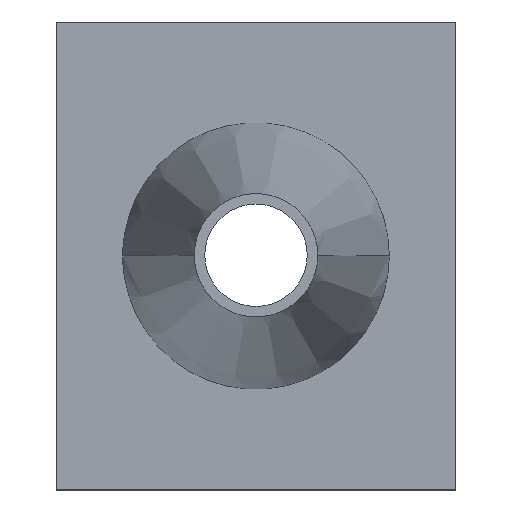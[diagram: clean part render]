
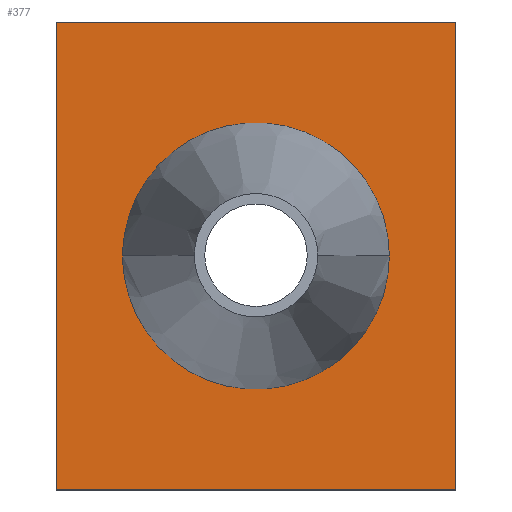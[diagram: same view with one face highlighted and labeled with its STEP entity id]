
A CAD part, top view. The second image highlights one B-rep face of the part: STEP entity #377.
In plain terms, the highlighted planar face has unit normal (0, 0, 1).
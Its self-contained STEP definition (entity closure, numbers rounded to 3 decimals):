
#167=CARTESIAN_POINT('Vertex',(0.,137.,3.)) ;
#174=CARTESIAN_POINT('Vertex',(0.,0.,3.)) ;
#177=CARTESIAN_POINT('Line Origine',(0.,68.5,3.)) ;
#198=CARTESIAN_POINT('Vertex',(117.,137.,3.)) ;
#201=CARTESIAN_POINT('Line Origine',(58.5,137.,3.)) ;
#222=CARTESIAN_POINT('Vertex',(117.,0.,3.)) ;
#225=CARTESIAN_POINT('Line Origine',(117.,68.5,3.)) ;
#242=CARTESIAN_POINT('Line Origine',(58.5,0.,3.)) ;
#324=CARTESIAN_POINT('Axis2P3D Location',(0.,0.,3.)) ;
#336=CARTESIAN_POINT('Control Point',(97.529,68.5,3.)) ;
#337=CARTESIAN_POINT('Control Point',(97.529,74.636,3.)) ;
#338=CARTESIAN_POINT('Control Point',(96.323,80.772,3.)) ;
#339=CARTESIAN_POINT('Control Point',(93.91,86.593,3.)) ;
#340=CARTESIAN_POINT('Control Point',(86.929,96.972,3.)) ;
#341=CARTESIAN_POINT('Control Point',(76.54,103.937,3.)) ;
#342=CARTESIAN_POINT('Control Point',(70.715,106.342,3.)) ;
#343=CARTESIAN_POINT('Control Point',(58.437,108.735,3.)) ;
#344=CARTESIAN_POINT('Control Point',(46.167,106.304,3.)) ;
#345=CARTESIAN_POINT('Control Point',(40.349,103.88,3.)) ;
#346=CARTESIAN_POINT('Control Point',(30.002,96.897,3.)) ;
#347=CARTESIAN_POINT('Control Point',(23.061,86.523,3.)) ;
#348=CARTESIAN_POINT('Control Point',(20.667,80.724,3.)) ;
#349=CARTESIAN_POINT('Control Point',(19.471,74.612,3.)) ;
#350=CARTESIAN_POINT('Control Point',(19.471,68.5,3.)) ;
#351=CARTESIAN_POINT('Vertex',(97.529,68.5,3.)) ;
#353=CARTESIAN_POINT('Vertex',(19.471,68.5,3.)) ;
#357=CARTESIAN_POINT('Control Point',(97.529,68.5,3.)) ;
#358=CARTESIAN_POINT('Control Point',(97.529,62.364,3.)) ;
#359=CARTESIAN_POINT('Control Point',(96.323,56.228,3.)) ;
#360=CARTESIAN_POINT('Control Point',(93.91,50.407,3.)) ;
#361=CARTESIAN_POINT('Control Point',(86.929,40.028,3.)) ;
#362=CARTESIAN_POINT('Control Point',(76.54,33.063,3.)) ;
#363=CARTESIAN_POINT('Control Point',(70.715,30.658,3.)) ;
#364=CARTESIAN_POINT('Control Point',(58.437,28.265,3.)) ;
#365=CARTESIAN_POINT('Control Point',(46.167,30.696,3.)) ;
#366=CARTESIAN_POINT('Control Point',(40.349,33.12,3.)) ;
#367=CARTESIAN_POINT('Control Point',(30.002,40.103,3.)) ;
#368=CARTESIAN_POINT('Control Point',(23.061,50.477,3.)) ;
#369=CARTESIAN_POINT('Control Point',(20.667,56.276,3.)) ;
#370=CARTESIAN_POINT('Control Point',(19.471,62.388,3.)) ;
#371=CARTESIAN_POINT('Control Point',(19.471,68.5,3.)) ;
#178=DIRECTION('Vector Direction',(0.,1.,0.)) ;
#202=DIRECTION('Vector Direction',(-1.,0.,0.)) ;
#226=DIRECTION('Vector Direction',(0.,1.,0.)) ;
#243=DIRECTION('Vector Direction',(1.,0.,0.)) ;
#325=DIRECTION('Axis2P3D Direction',(0.,0.,1.)) ;
#326=DIRECTION('Axis2P3D XDirection',(1.,0.,0.)) ;
#327=AXIS2_PLACEMENT_3D('Plane Axis2P3D',#324,#325,#326) ;
#330=ORIENTED_EDGE('',*,*,#181,.F.) ;
#331=ORIENTED_EDGE('',*,*,#246,.T.) ;
#332=ORIENTED_EDGE('',*,*,#229,.T.) ;
#333=ORIENTED_EDGE('',*,*,#205,.T.) ;
#374=ORIENTED_EDGE('',*,*,#355,.F.) ;
#375=ORIENTED_EDGE('',*,*,#372,.T.) ;
#376=FACE_BOUND('',#373,.T.) ;
#179=VECTOR('Line Direction',#178,1.) ;
#203=VECTOR('Line Direction',#202,1.) ;
#227=VECTOR('Line Direction',#226,1.) ;
#244=VECTOR('Line Direction',#243,1.) ;
#377=ADVANCED_FACE('PartBody',(#334,#376),#328,.T.) ;
#335=B_SPLINE_CURVE_WITH_KNOTS('',5,(#336,#337,#338,#339,#340,#341,#342,#343,#344,#345,#346,#347,#348,#349,#350),.UNSPECIFIED.,.F.,.U.,(6,3,3,3,6),(0.,32.869,65.743,98.616,131.354),.UNSPECIFIED.) ;
#356=B_SPLINE_CURVE_WITH_KNOTS('',5,(#357,#358,#359,#360,#361,#362,#363,#364,#365,#366,#367,#368,#369,#370,#371),.UNSPECIFIED.,.F.,.U.,(6,3,3,3,6),(0.,32.869,65.743,98.616,131.354),.UNSPECIFIED.) ;
#181=EDGE_CURVE('',#175,#168,#180,.T.) ;
#205=EDGE_CURVE('',#199,#168,#204,.T.) ;
#229=EDGE_CURVE('',#223,#199,#228,.T.) ;
#246=EDGE_CURVE('',#175,#223,#245,.T.) ;
#355=EDGE_CURVE('',#352,#354,#335,.T.) ;
#372=EDGE_CURVE('',#352,#354,#356,.T.) ;
#329=EDGE_LOOP('',(#330,#331,#332,#333)) ;
#373=EDGE_LOOP('',(#374,#375)) ;
#334=FACE_OUTER_BOUND('',#329,.T.) ;
#180=LINE('Line',#177,#179) ;
#204=LINE('Line',#201,#203) ;
#228=LINE('Line',#225,#227) ;
#245=LINE('Line',#242,#244) ;
#328=PLANE('',#327) ;
#168=VERTEX_POINT('',#167) ;
#175=VERTEX_POINT('',#174) ;
#199=VERTEX_POINT('',#198) ;
#223=VERTEX_POINT('',#222) ;
#352=VERTEX_POINT('',#351) ;
#354=VERTEX_POINT('',#353) ;
